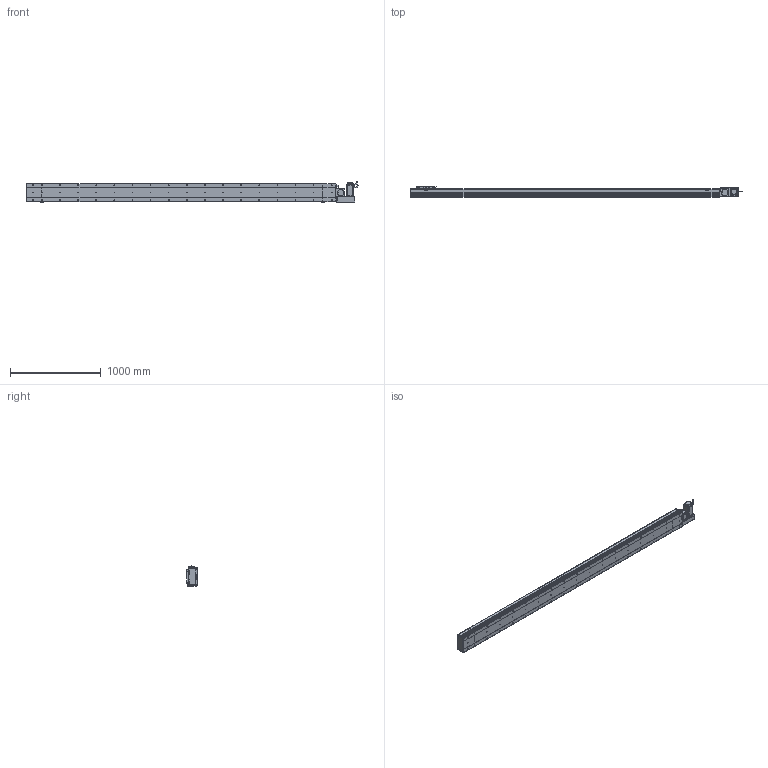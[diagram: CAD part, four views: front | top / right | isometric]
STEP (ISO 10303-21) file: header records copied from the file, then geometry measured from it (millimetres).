
FILE_DESCRIPTION (( 'STEP AP214' ), '1' );
FILE_NAME ('D20 CBH RH S3100.STEP', '2010-06-30T10:41:59', ( 'Conseil Régional Haute-Normandie' ), ( 'Conseil Régional Haute-Normandie' ), 'SwSTEP 2.0', 'SolidWorks 2010', '' );
FILE_SCHEMA (( 'AUTOMOTIVE_DESIGN' ));
Length unit declared in the file: millimetre
Products named in the file (31): avant 90BLDC125A-640; Moteur motionking 90BLDC125A-640; Plaque de Bout Head D20 RH_Default; Chariot D20_Default; Head D20 RH_Default; Corp Tail D20 RH_Default; Couvercle RH_Default; Plaque De Serrage D20 RH_Default; Cache Support Moteur RH_Default; Support Chariot D20_Default; Rondelle Cache D20 RH_Default; vis M5 L47_Default; Conecteur2_Default; ecrou_Default; vis M5 L30_Default; Conecteur_Default; codeur 90BLDC125-640; corps 90BLDC125A-640; Corp D20 S3100_Default; Glissiere_Default; Corp Tail D20+100_Default; Tail D20+100_Default; Couvercle S3100_Default; Corp S3100_Default; Plaque de Bout Tail D20_Default; Couvercle_Default; D20 CBH RH S3100; vis M5 L15_Default; Plaque De Serrage D20_Default; Support moteur RH_Default
Assembly tree (68 placements, depth 4):
  D20 CBH RH S3100
    Corp D20 S3100_Default
      Couvercle S3100_Default
      Corp S3100_Default
    Head D20 RH_Default
      ecrou_Default  x4
      vis M5 L15_Default  x14
      Rondelle Cache D20 RH_Default  x3
      Corp Tail D20 RH_Default
      vis M5 L30_Default  x4
      vis M5 L47_Default  x4
      Plaque De Serrage D20 RH_Default
      Cache Support Moteur RH_Default
      Couvercle RH_Default
      Moteur motionking 90BLDC125A-640
        corps 90BLDC125A-640
        Conecteur_Default
        avant 90BLDC125A-640
        codeur 90BLDC125-640
        Conecteur2_Default
      Plaque de Bout Head D20 RH_Default
      Support moteur RH_Default
    Tail D20+100_Default
      vis M5 L15_Default  x6
      Corp Tail D20+100_Default
      Plaque De Serrage D20_Default
      Couvercle_Default
      Plaque de Bout Tail D20_Default
    Chariot D20_Default
      vis M5 L15_Default  x8
      Support Chariot D20_Default
      Glissiere_Default
      Chariot D20_Default
Bounding box: 3665.45 x 119.5 x 229.7 mm (x, y, z)
Volume: 23873085.3 mm3; surface area: 4586256.1 mm2
Topology: 105 solids, 105 shells, 3874 faces, 9624 edges, 6250 vertices
Faces by surface type: plane 2149, bspline 806, cylinder 748, torus 95, cone 72, sphere 4
Entity records: 161030 total; most frequent: CARTESIAN_POINT 82580, ORIENTED_EDGE 15516, DIRECTION 11926, EDGE_CURVE 7758, VERTEX_POINT 5134, LINE 4990, VECTOR 4990, AXIS2_PLACEMENT_3D 3468
